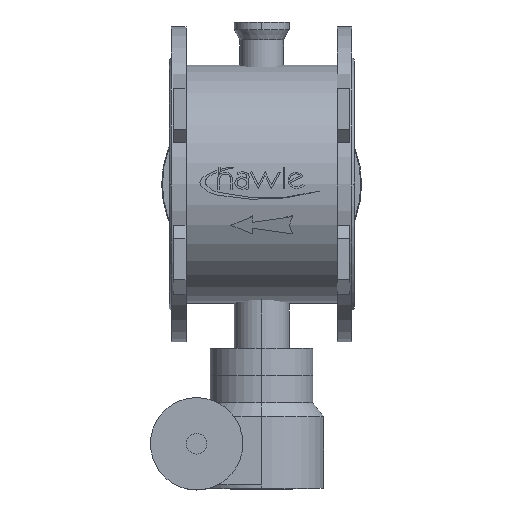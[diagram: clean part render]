
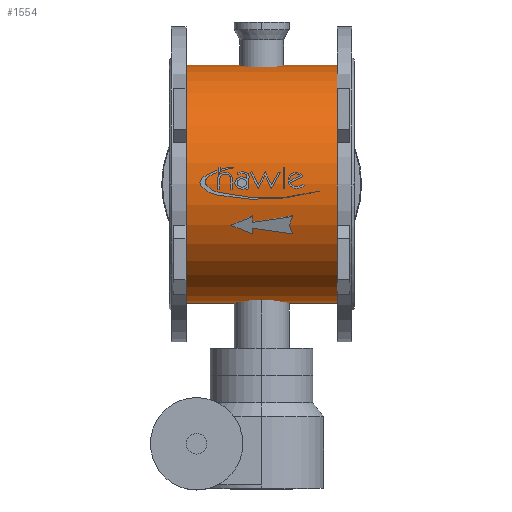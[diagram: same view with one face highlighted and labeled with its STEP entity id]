
A CAD part, top view. The second image highlights one B-rep face of the part: STEP entity #1554.
In plain terms, the highlighted cylindrical face has radius 174 mm (diameter 348 mm), a partial arc.
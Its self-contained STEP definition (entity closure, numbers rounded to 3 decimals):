
#1554=ADVANCED_FACE('',(#2928),#2929,.T.);
#2928=FACE_OUTER_BOUND('',#4398,.T.);
#2929=CYLINDRICAL_SURFACE('',#4399,174.0);
#4398=EDGE_LOOP('',(#7289,#7290,#7291,#7292));
#4399=AXIS2_PLACEMENT_3D('',#7293,#7294,#7295);
#7289=ORIENTED_EDGE('',*,*,#7972,.T.);
#7290=ORIENTED_EDGE('',*,*,#8037,.T.);
#7291=ORIENTED_EDGE('',*,*,#7974,.T.);
#7292=ORIENTED_EDGE('',*,*,#8020,.T.);
#7293=CARTESIAN_POINT('',(-245.5,0.,0.0));
#7294=DIRECTION('',(1.0,0.,0.0));
#7295=DIRECTION('',(0.,-1.0,0.0));
#7972=EDGE_CURVE('',#9385,#9386,#9387,.T.);
#7974=EDGE_CURVE('',#9390,#9388,#9391,.T.);
#8020=EDGE_CURVE('',#9388,#9385,#9461,.T.);
#8037=EDGE_CURVE('',#9386,#9390,#9488,.T.);
#9385=VERTEX_POINT('',#11261);
#9386=VERTEX_POINT('',#11262);
#9387=LINE('',#11263,#11264);
#9388=VERTEX_POINT('',#11265);
#9390=VERTEX_POINT('',#11267);
#9391=LINE('',#11268,#11269);
#9461=CIRCLE('',#11356,174.0);
#9488=CIRCLE('',#11388,174.0);
#11261=CARTESIAN_POINT('',(-245.5,-174.0,0.0));
#11262=CARTESIAN_POINT('',(-24.5,-174.0,0.0));
#11263=CARTESIAN_POINT('',(-245.5,-174.0,0.));
#11264=VECTOR('',#13513,1.0);
#11265=CARTESIAN_POINT('',(-245.5,174.0,0.));
#11267=CARTESIAN_POINT('',(-24.5,174.0,0.));
#11268=CARTESIAN_POINT('',(-245.5,174.0,0.));
#11269=VECTOR('',#13517,1.0);
#11356=AXIS2_PLACEMENT_3D('',#13583,#13584,#13585);
#11388=AXIS2_PLACEMENT_3D('',#13612,#13613,#13614);
#13513=DIRECTION('',(1.0,0.,0.0));
#13517=DIRECTION('',(-1.0,0.,-0.0));
#13583=CARTESIAN_POINT('',(-245.5,0.,0.0));
#13584=DIRECTION('',(1.0,0.,0.0));
#13585=DIRECTION('',(0.,-1.0,0.0));
#13612=CARTESIAN_POINT('',(-24.5,0.,0.0));
#13613=DIRECTION('',(-1.0,0.,0.0));
#13614=DIRECTION('',(0.,-1.0,0.0));
